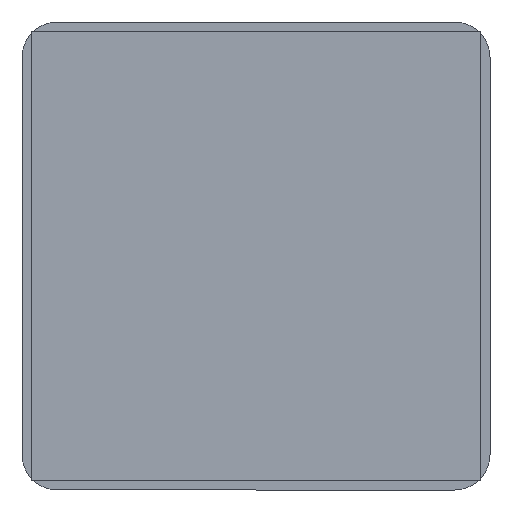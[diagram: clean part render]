
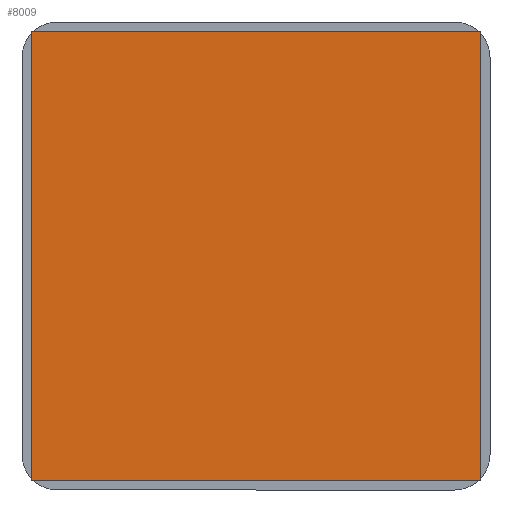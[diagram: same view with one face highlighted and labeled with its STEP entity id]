
A CAD part, front view. The second image highlights one B-rep face of the part: STEP entity #8009.
In plain terms, the highlighted planar face has unit normal (0, -1, 0).
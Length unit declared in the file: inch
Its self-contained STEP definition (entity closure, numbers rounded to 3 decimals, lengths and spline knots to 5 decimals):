
#474 = CARTESIAN_POINT ( 'NONE',  ( 0.74803, -0.005, -0.74803 ) ) ;
#482 = EDGE_CURVE ( 'NONE', #4854, #645, #15350, .T. ) ;
#645 = VERTEX_POINT ( 'NONE', #4862 ) ;
#1455 = DIRECTION ( 'NONE',  ( 1., 0., 0. ) ) ;
#2039 = LINE ( 'NONE', #474, #7404 ) ;
#2299 = VERTEX_POINT ( 'NONE', #14775 ) ;
#2659 = CARTESIAN_POINT ( 'NONE',  ( 0.74803, -0.005, 0.74803 ) ) ;
#3102 = ORIENTED_EDGE ( 'NONE', *, *, #15481, .T. ) ;
#3269 = LINE ( 'NONE', #5739, #14346 ) ;
#3592 = DIRECTION ( 'NONE',  ( 0., 0., 1. ) ) ;
#4238 = ORIENTED_EDGE ( 'NONE', *, *, #11942, .T. ) ;
#4430 = DIRECTION ( 'NONE',  ( 0., 0., 1. ) ) ;
#4500 = VERTEX_POINT ( 'NONE', #4598 ) ;
#4598 = CARTESIAN_POINT ( 'NONE',  ( -0.74803, -0.005, 0.74803 ) ) ;
#4854 = VERTEX_POINT ( 'NONE', #15732 ) ;
#4862 = CARTESIAN_POINT ( 'NONE',  ( 0.74803, -0.005, -0.74803 ) ) ;
#5092 = AXIS2_PLACEMENT_3D ( 'NONE', #2659, #12698, #3592 ) ;
#5107 = VECTOR ( 'NONE', #15878, 39.37008 ) ;
#5739 = CARTESIAN_POINT ( 'NONE',  ( -0.74803, -0.005, -0.74803 ) ) ;
#5997 = EDGE_LOOP ( 'NONE', ( #14333, #4238, #3102, #13140 ) ) ;
#6009 = EDGE_CURVE ( 'NONE', #645, #2299, #2039, .T. ) ;
#7404 = VECTOR ( 'NONE', #4430, 39.37008 ) ;
#7703 = VECTOR ( 'NONE', #1455, 39.37008 ) ;
#7920 = LINE ( 'NONE', #12913, #5107 ) ;
#8009 = ADVANCED_FACE ( 'NONE', ( #11136 ), #13928, .T. ) ;
#8043 = DIRECTION ( 'NONE',  ( 0., 0., -1. ) ) ;
#9200 = CARTESIAN_POINT ( 'NONE',  ( 0.74803, -0.005, -0.74803 ) ) ;
#11136 = FACE_OUTER_BOUND ( 'NONE', #5997, .T. ) ;
#11942 = EDGE_CURVE ( 'NONE', #2299, #4500, #7920, .T. ) ;
#12698 = DIRECTION ( 'NONE',  ( 0., -1., 0. ) ) ;
#12913 = CARTESIAN_POINT ( 'NONE',  ( 0.74803, -0.005, 0.74803 ) ) ;
#13140 = ORIENTED_EDGE ( 'NONE', *, *, #482, .T. ) ;
#13928 = PLANE ( 'NONE',  #5092 ) ;
#14333 = ORIENTED_EDGE ( 'NONE', *, *, #6009, .T. ) ;
#14346 = VECTOR ( 'NONE', #8043, 39.37008 ) ;
#14775 = CARTESIAN_POINT ( 'NONE',  ( 0.74803, -0.005, 0.74803 ) ) ;
#15350 = LINE ( 'NONE', #9200, #7703 ) ;
#15481 = EDGE_CURVE ( 'NONE', #4500, #4854, #3269, .T. ) ;
#15732 = CARTESIAN_POINT ( 'NONE',  ( -0.74803, -0.005, -0.74803 ) ) ;
#15878 = DIRECTION ( 'NONE',  ( -1., 0., 0. ) ) ;
